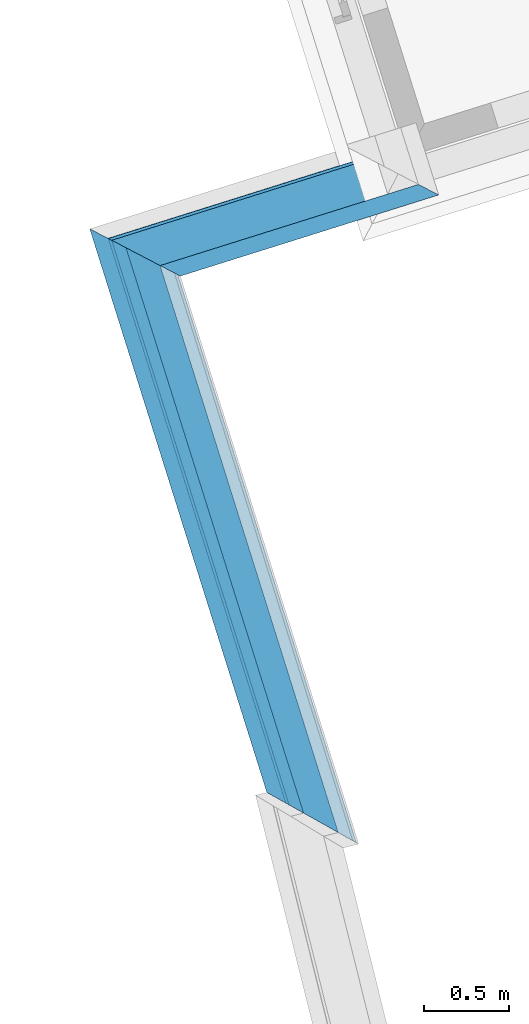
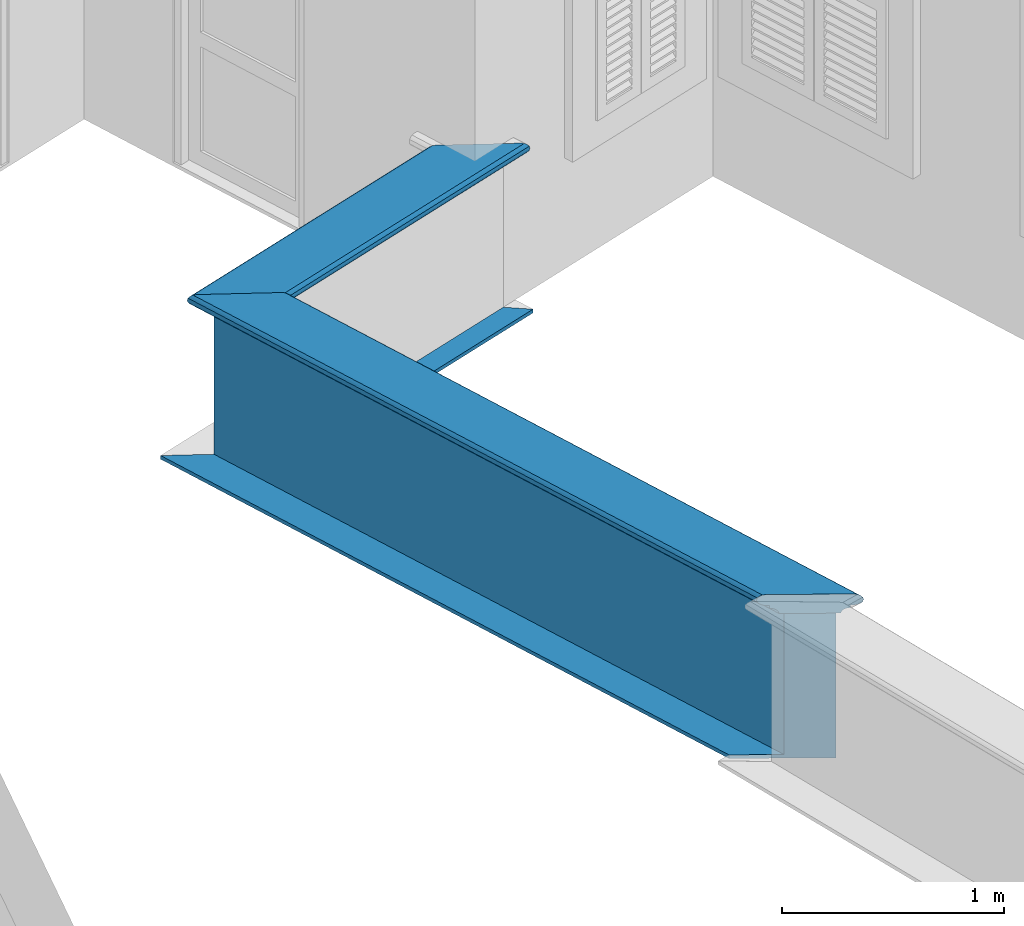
# One storey, part 7 of 13: 4 walls.
"""IFC4 building model written with IfcOpenShell, lengths in metres."""

from ifc_helpers import new_model, si_unit, frame, origin_with_axes, place, context, subcontext, project, spatial, polyline, outline, extrude, clip, halfspace, material_profile, profile_set, profile_usage, type_object, element, save


model = new_model("IFC4")

# Units and contexts
model_context = context("Model", 3, world=origin_with_axes())
body_context = subcontext(model_context, "Body", "Model", "MODEL_VIEW")
ifc_project = project(units=[si_unit("PLANEANGLEUNIT", "RADIAN"), si_unit("MASSUNIT", "GRAM", prefix="KILO"), si_unit("FORCEUNIT", "NEWTON", prefix="KILO"), si_unit("LENGTHUNIT", "METRE"), si_unit("AREAUNIT", "SQUARE_METRE"), si_unit("VOLUMEUNIT", "CUBIC_METRE")], contexts=[model_context, model_context])

# Site, building, storey
site_placement = place(None, origin_with_axes())
site = spatial("IfcSite", under=ifc_project, at=site_placement, Name="Site plot-0", CompositionType="ELEMENT")
building_placement = place(None, origin_with_axes())
building = spatial("IfcBuilding", under=site, at=building_placement, Name="Building plot-0", CompositionType="ELEMENT")
storey_placement = place(None, frame((0.0, 0.0, 3.6), z_axis=(0.0, 0.0, 1.0), x_axis=(1.0, 0.0, 0.0)))
storey = spatial("IfcBuildingStorey", under=building, at=storey_placement, Name="plot-0 1", CompositionType="ELEMENT", Elevation=3.6)

# Walls
ifc_material_profile_1 = material_profile(None, outline(polyline([(0.25, 0.0), (0.25, 0.795), (0.09, 0.795), (0.09, 0.02), (-0.08, 0.02), (-0.08, 0.0), (0.25, 0.0)])))
ifc_profile_set_1 = profile_set([ifc_material_profile_1])
ifc_profile_usage_1 = profile_usage(ifc_profile_set_1)
wall_type_1 = type_object("IfcWallType", Name="parapet internal_0", PredefinedType="PARAPET", material=ifc_profile_set_1)
wall_1_placement = place(storey_placement, frame((2.71061005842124, 9.67832569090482, 0.0), z_axis=(0.299724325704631, -0.954025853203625, 0.0), x_axis=(0.954025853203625, 0.299724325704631, 0.0)))
element("IfcWall", 1, at=wall_1_placement, inside=storey, type_object=wall_type_1, material=ifc_profile_usage_1, Name="parapet internal_0", context=body_context, shape_type="Clipping", body=[
    clip(clip(extrude(outline(polyline([(0.25, 0.0), (0.25, 0.795), (0.09, 0.795), (0.09, 0.02), (-0.08, 0.02), (-0.08, 0.0), (0.25, 0.0)])), origin_with_axes(), (0.0, 0.0, 1.0), 5.48043635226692), halfspace(frame((0.0, 0.0, 4.48043635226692), z_axis=(0.728268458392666, 0.0, -0.685291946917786), x_axis=(0.0, 1.0, 0.0)), True)), halfspace(frame((0.0, 0.0, 1.0), z_axis=(0.707106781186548, 0.0, -0.707106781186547), x_axis=(0.0, 1.0, 0.0)), False)),
])
ifc_material_profile_2 = material_profile(None, outline(polyline([(0.265, 0.795), (0.268, 0.807), (0.274, 0.816), (0.283, 0.822), (0.295, 0.825), (0.295, 0.84), (0.305, 0.84), (0.317, 0.842), (0.326, 0.849), (0.333, 0.858), (0.335, 0.87), (0.333, 0.882), (0.326, 0.891), (0.317, 0.898), (0.305, 0.9), (0.035, 0.9), (0.023, 0.898), (0.014, 0.891), (0.007, 0.882), (0.005, 0.87), (0.007, 0.858), (0.014, 0.849), (0.023, 0.842), (0.035, 0.84), (0.045, 0.84), (0.045, 0.825), (0.057, 0.822), (0.066, 0.816), (0.072, 0.807), (0.075, 0.795), (0.265, 0.795)])))
ifc_profile_set_2 = profile_set([ifc_material_profile_2])
ifc_profile_usage_2 = profile_usage(ifc_profile_set_2)
wall_type_2 = type_object("IfcWallType", Name="parapet internal_1", PredefinedType="PARAPET", material=ifc_profile_set_2)
wall_2_placement = place(storey_placement, frame((2.71061005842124, 9.67832569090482, 0.0), z_axis=(0.299724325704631, -0.954025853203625, 0.0), x_axis=(0.954025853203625, 0.299724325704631, 0.0)))
element("IfcWall", 2, at=wall_2_placement, inside=storey, type_object=wall_type_2, material=ifc_profile_usage_2, Name="parapet internal_1", context=body_context, shape_type="Clipping", body=[
    clip(clip(extrude(outline(polyline([(0.265, 0.795), (0.268, 0.807), (0.274, 0.816), (0.283, 0.822), (0.295, 0.825), (0.295, 0.84), (0.305, 0.84), (0.317, 0.842), (0.326, 0.849), (0.333, 0.858), (0.335, 0.87), (0.333, 0.882), (0.326, 0.891), (0.317, 0.898), (0.305, 0.9), (0.035, 0.9), (0.023, 0.898), (0.014, 0.891), (0.007, 0.882), (0.005, 0.87), (0.007, 0.858), (0.014, 0.849), (0.023, 0.842), (0.035, 0.84), (0.045, 0.84), (0.045, 0.825), (0.057, 0.822), (0.066, 0.816), (0.072, 0.807), (0.075, 0.795), (0.265, 0.795)])), origin_with_axes(), (0.0, 0.0, 1.0), 5.48043635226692), halfspace(frame((0.0, 0.0, 4.48043635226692), z_axis=(0.728268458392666, 0.0, -0.685291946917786), x_axis=(0.0, 1.0, 0.0)), True)), halfspace(frame((0.0, 0.0, 1.0), z_axis=(0.707106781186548, 0.0, -0.707106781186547), x_axis=(0.0, 1.0, 0.0)), False)),
])
ifc_profile_usage_3 = profile_usage(ifc_profile_set_2)
wall_3_placement = place(storey_placement, frame((5.48404256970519, 9.50145961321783, 0.0), z_axis=(-0.954025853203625, -0.29972432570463, 0.0), x_axis=(0.29972432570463, -0.954025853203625, 0.0)))
element("IfcWall", 3, at=wall_3_placement, inside=storey, type_object=wall_type_2, material=ifc_profile_usage_3, Name="parapet internal_1", context=body_context, shape_type="Clipping", body=[
    clip(clip(extrude(outline(polyline([(0.265, 0.795), (0.268, 0.807), (0.274, 0.816), (0.283, 0.822), (0.295, 0.825), (0.295, 0.84), (0.305, 0.84), (0.317, 0.842), (0.326, 0.849), (0.333, 0.858), (0.335, 0.87), (0.333, 0.882), (0.326, 0.891), (0.317, 0.898), (0.305, 0.9), (0.035, 0.9), (0.023, 0.898), (0.014, 0.891), (0.007, 0.882), (0.005, 0.87), (0.007, 0.858), (0.014, 0.849), (0.023, 0.842), (0.035, 0.84), (0.045, 0.84), (0.045, 0.825), (0.057, 0.822), (0.066, 0.816), (0.072, 0.807), (0.075, 0.795), (0.265, 0.795)])), origin_with_axes(), (0.0, 0.0, 1.0), 3.59291525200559), halfspace(frame((0.0, 0.0, 2.59291525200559), z_axis=(-0.707106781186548, 0.0, -0.707106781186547), x_axis=(0.0, 1.0, 0.0)), True)), halfspace(frame((0.0, 0.0, 1.0), z_axis=(-0.707106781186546, 0.0, -0.707106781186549), x_axis=(0.0, 1.0, 0.0)), False)),
])
ifc_material_profile_3 = material_profile(None, outline(polyline([(0.25, -0.1), (0.265, -0.1), (0.265, -0.085), (0.278, -0.084), (0.289, -0.081), (0.301, -0.074), (0.309, -0.065), (0.315, -0.055), (0.324, -0.044), (0.334, -0.038), (0.345, -0.035), (0.345, -0.015), (0.25, 0.0), (0.25, -0.1)])))
ifc_profile_set_3 = profile_set([ifc_material_profile_3])
ifc_profile_usage_4 = profile_usage(ifc_profile_set_3)
wall_type_3 = type_object("IfcWallType", Name="parapet internal_2", PredefinedType="PARAPET", material=ifc_profile_set_3)
wall_4_placement = place(storey_placement, frame((5.48404256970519, 9.50145961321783, 0.0), z_axis=(-0.954025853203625, -0.29972432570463, 0.0), x_axis=(0.29972432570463, -0.954025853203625, 0.0)))
element("IfcWall", 4, at=wall_4_placement, inside=storey, type_object=wall_type_3, material=ifc_profile_usage_4, Name="parapet internal_2", context=body_context, shape_type="Clipping", body=[
    clip(clip(extrude(outline(polyline([(0.25, -0.1), (0.265, -0.1), (0.265, -0.085), (0.278, -0.084), (0.289, -0.081), (0.301, -0.074), (0.309, -0.065), (0.315, -0.055), (0.324, -0.044), (0.334, -0.038), (0.345, -0.035), (0.345, -0.015), (0.25, 0.0), (0.25, -0.1)])), origin_with_axes(), (0.0, 0.0, 1.0), 3.59291525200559), halfspace(frame((0.0, 0.0, 2.59291525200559), z_axis=(-0.707106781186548, 0.0, -0.707106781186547), x_axis=(0.0, 1.0, 0.0)), True)), halfspace(frame((0.0, 0.0, 1.0), z_axis=(-0.707106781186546, 0.0, -0.707106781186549), x_axis=(0.0, 1.0, 0.0)), False)),
])

save(model, "model.ifc")
